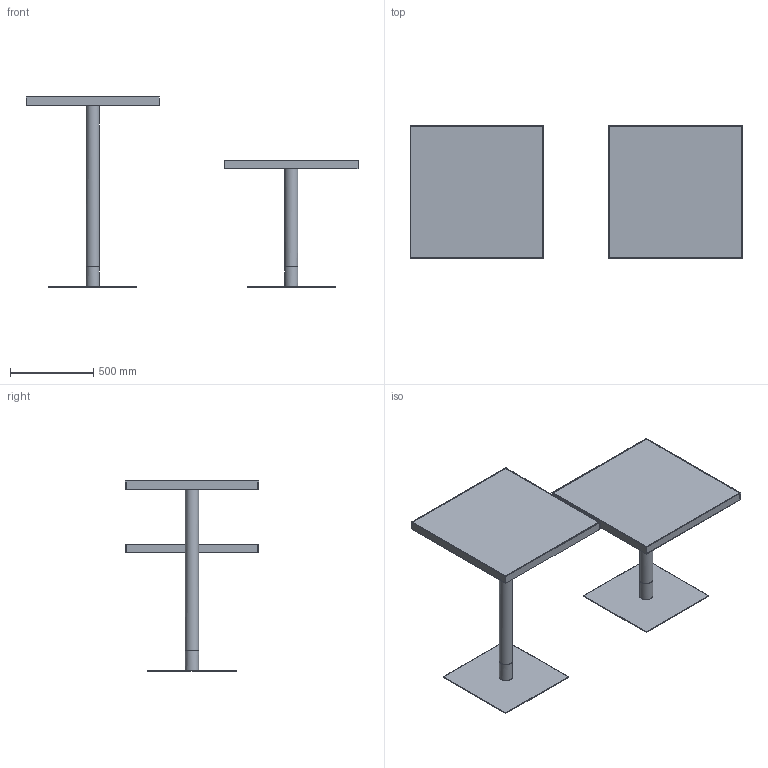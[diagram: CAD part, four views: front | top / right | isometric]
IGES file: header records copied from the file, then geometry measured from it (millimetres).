
Global section: file name: \\192.168.4.99\ufficio_tecnico\02 - PRODOTTI IN PRODUZIONE\SHERRY\03 - DISEGNI 3D\3D x SITO\SHERRY.igs; native system: Rhinoceros ( May 22 2017 ); preprocessor: Trout Lake IGES 012 May 22 2017; date: 190617.082257; units: centimetre
Bounding box: 1989.99 x 800 x 1140 mm (x, y, z)
Surface area: 5154212.9 mm2 (no closed solid volume)
Topology: 0 solids, 0 shells, 92 faces, 992 edges, 992 vertices
Faces by surface type: bspline 92
